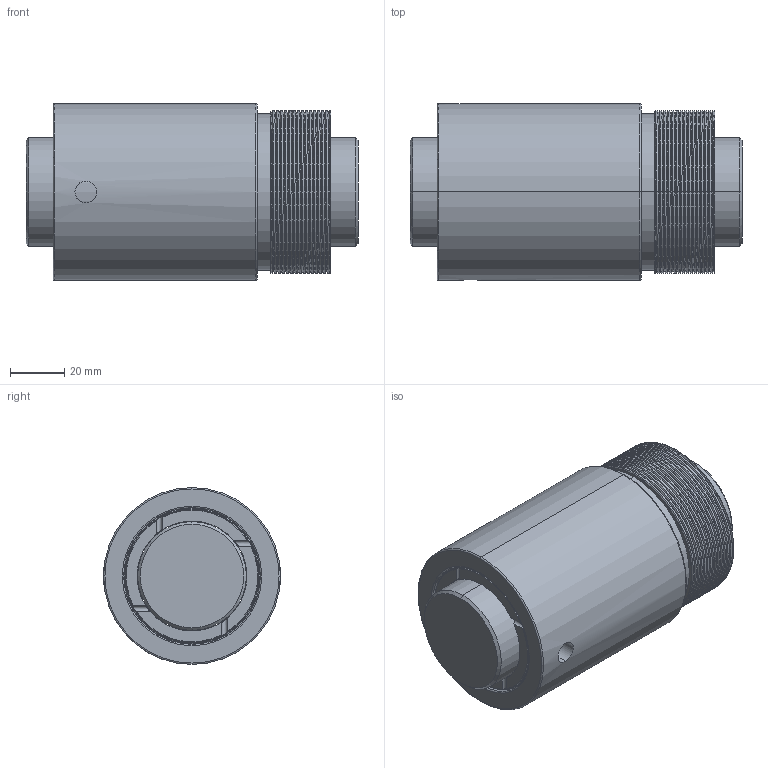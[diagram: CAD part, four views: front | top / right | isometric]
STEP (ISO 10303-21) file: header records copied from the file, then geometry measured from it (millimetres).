
FILE_DESCRIPTION (( 'STEP AP203' ), '1' );
FILE_NAME ('BSHR04010T4-C.STEP', '2020-06-17T07:06:34', ( '' ), ( '' ), 'SwSTEP 2.0', 'SolidWorks 2013', '' );
FILE_SCHEMA (( 'CONFIG_CONTROL_DESIGN' ));
Length unit declared in the file: millimetre
Products named in the file (1): BSHR04010T4-C
Bounding box: 122 x 65 x 65 mm (x, y, z)
Volume: 326206.8 mm3; surface area: 62927.4 mm2
Topology: 2 solids, 2 shells, 129 faces, 318 edges, 200 vertices
Faces by surface type: cylinder 73, torus 26, plane 21, cone 6, bspline 3
Entity records: 6752 total; most frequent: CARTESIAN_POINT 3816, ORIENTED_EDGE 632, DIRECTION 580, EDGE_CURVE 316, AXIS2_PLACEMENT_3D 249, VERTEX_POINT 200, EDGE_LOOP 142, FACE_OUTER_BOUND 129
